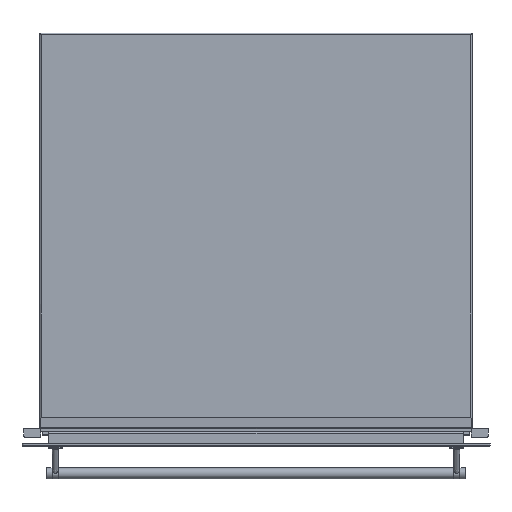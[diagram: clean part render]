
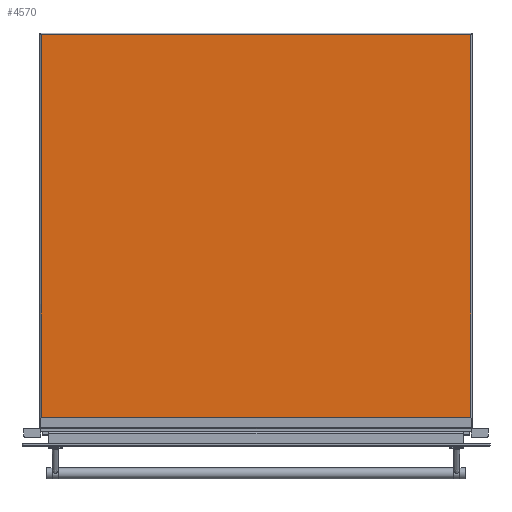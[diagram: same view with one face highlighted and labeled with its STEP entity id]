
A CAD part, front view. The second image highlights one B-rep face of the part: STEP entity #4570.
In plain terms, the highlighted planar face has unit normal (0, -1, 0).
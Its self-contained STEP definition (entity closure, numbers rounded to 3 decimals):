
#439 = VECTOR ( 'NONE', #889, 1000. ) ;
#587 = DIRECTION ( 'NONE',  ( 0., 0., 1. ) ) ;
#889 = DIRECTION ( 'NONE',  ( -1., 0., 0. ) ) ;
#972 = LINE ( 'NONE', #4029, #1835 ) ;
#1379 = AXIS2_PLACEMENT_3D ( 'NONE', #2074, #4796, #1489 ) ;
#1439 = ORIENTED_EDGE ( 'NONE', *, *, #4498, .T. ) ;
#1489 = DIRECTION ( 'NONE',  ( 0., 0., 1. ) ) ;
#1610 = EDGE_LOOP ( 'NONE', ( #5800, #6131, #1439, #5004 ) ) ;
#1835 = VECTOR ( 'NONE', #5083, 1000. ) ;
#1894 = LINE ( 'NONE', #6993, #439 ) ;
#2039 = LINE ( 'NONE', #6691, #2388 ) ;
#2074 = CARTESIAN_POINT ( 'NONE',  ( 275.75, 0., 0. ) ) ;
#2388 = VECTOR ( 'NONE', #587, 1000. ) ;
#2538 = CARTESIAN_POINT ( 'NONE',  ( -273.95, 0., -489.099 ) ) ;
#2646 = EDGE_CURVE ( 'NONE', #5718, #5815, #2039, .T. ) ;
#2930 = CARTESIAN_POINT ( 'NONE',  ( 273.95, 0., -489.099 ) ) ;
#3057 = CARTESIAN_POINT ( 'NONE',  ( 275.75, 0., -489.099 ) ) ;
#3182 = VECTOR ( 'NONE', #6992, 1000. ) ;
#3361 = LINE ( 'NONE', #3057, #3182 ) ;
#3631 = EDGE_CURVE ( 'NONE', #6925, #6403, #972, .T. ) ;
#4029 = CARTESIAN_POINT ( 'NONE',  ( -273.95, 0., 0. ) ) ;
#4311 = FACE_OUTER_BOUND ( 'NONE', #1610, .T. ) ;
#4498 = EDGE_CURVE ( 'NONE', #6403, #5718, #3361, .T. ) ;
#4570 = ADVANCED_FACE ( 'NONE', ( #4311 ), #7129, .F. ) ;
#4796 = DIRECTION ( 'NONE',  ( 0., 1., 0. ) ) ;
#5004 = ORIENTED_EDGE ( 'NONE', *, *, #2646, .T. ) ;
#5083 = DIRECTION ( 'NONE',  ( 0., 0., -1. ) ) ;
#5718 = VERTEX_POINT ( 'NONE', #2930 ) ;
#5800 = ORIENTED_EDGE ( 'NONE', *, *, #6197, .T. ) ;
#5815 = VERTEX_POINT ( 'NONE', #7114 ) ;
#5881 = CARTESIAN_POINT ( 'NONE',  ( -273.95, 0., -0.8 ) ) ;
#6131 = ORIENTED_EDGE ( 'NONE', *, *, #3631, .T. ) ;
#6197 = EDGE_CURVE ( 'NONE', #5815, #6925, #1894, .T. ) ;
#6403 = VERTEX_POINT ( 'NONE', #2538 ) ;
#6691 = CARTESIAN_POINT ( 'NONE',  ( 273.95, 0., 1. ) ) ;
#6925 = VERTEX_POINT ( 'NONE', #5881 ) ;
#6992 = DIRECTION ( 'NONE',  ( 1., 0., 0. ) ) ;
#6993 = CARTESIAN_POINT ( 'NONE',  ( 275.75, 0., -0.8 ) ) ;
#7114 = CARTESIAN_POINT ( 'NONE',  ( 273.95, 0., -0.8 ) ) ;
#7129 = PLANE ( 'NONE',  #1379 ) ;
